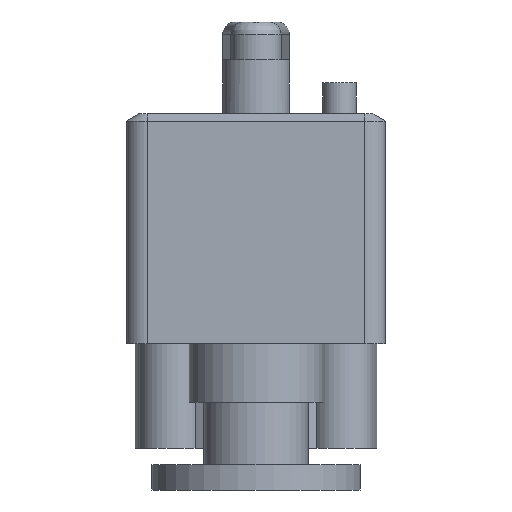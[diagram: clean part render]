
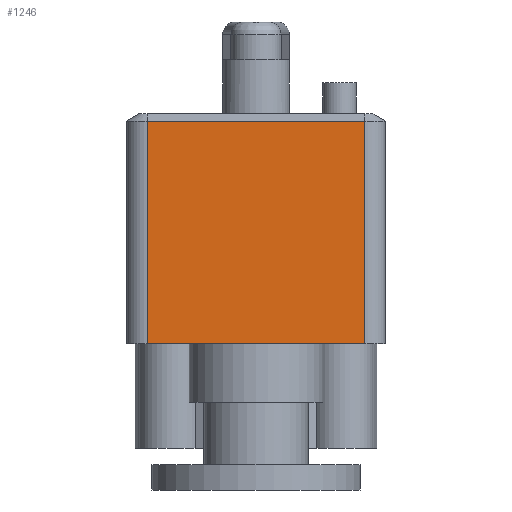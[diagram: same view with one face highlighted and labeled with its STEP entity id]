
A CAD part, left-side view. The second image highlights one B-rep face of the part: STEP entity #1246.
In plain terms, the highlighted planar face has unit normal (-1, 0, 0).
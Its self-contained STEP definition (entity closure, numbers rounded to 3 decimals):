
#207=FACE_OUTER_BOUND('',#291,.T.);
#291=EDGE_LOOP('',(#1110,#1111,#1112,#1113));
#366=LINE('',#2085,#463);
#384=LINE('',#2166,#481);
#388=LINE('',#2190,#485);
#389=LINE('',#2192,#486);
#463=VECTOR('',#1686,10.);
#481=VECTOR('',#1780,10.);
#485=VECTOR('',#1812,10.);
#486=VECTOR('',#1815,10.);
#565=VERTEX_POINT('',#2075);
#567=VERTEX_POINT('',#2081);
#592=VERTEX_POINT('',#2163);
#593=VERTEX_POINT('',#2165);
#720=EDGE_CURVE('',#565,#567,#366,.T.);
#760=EDGE_CURVE('',#592,#593,#384,.T.);
#771=EDGE_CURVE('',#592,#567,#388,.T.);
#772=EDGE_CURVE('',#593,#565,#389,.T.);
#1110=ORIENTED_EDGE('',*,*,#720,.F.);
#1111=ORIENTED_EDGE('',*,*,#772,.F.);
#1112=ORIENTED_EDGE('',*,*,#760,.F.);
#1113=ORIENTED_EDGE('',*,*,#771,.T.);
#1159=PLANE('',#1419);
#1246=ADVANCED_FACE('',(#207),#1159,.T.);
#1419=AXIS2_PLACEMENT_3D('',#2191,#1813,#1814);
#1686=DIRECTION('',(0.,-1.,0.));
#1780=DIRECTION('',(0.,1.,0.));
#1812=DIRECTION('',(0.,0.,1.));
#1813=DIRECTION('center_axis',(-1.,0.,0.));
#1814=DIRECTION('ref_axis',(0.,-1.,0.));
#1815=DIRECTION('',(0.,0.,1.));
#2075=CARTESIAN_POINT('',(-22.,26.,53.268));
#2081=CARTESIAN_POINT('',(-22.,-26.,53.268));
#2085=CARTESIAN_POINT('',(-22.,13.,53.268));
#2163=CARTESIAN_POINT('',(-22.,-26.,0.));
#2165=CARTESIAN_POINT('',(-22.,26.,0.));
#2166=CARTESIAN_POINT('',(-22.,-26.,0.));
#2190=CARTESIAN_POINT('',(-22.,-26.,0.));
#2191=CARTESIAN_POINT('Origin',(-22.,26.,0.));
#2192=CARTESIAN_POINT('',(-22.,26.,0.));
